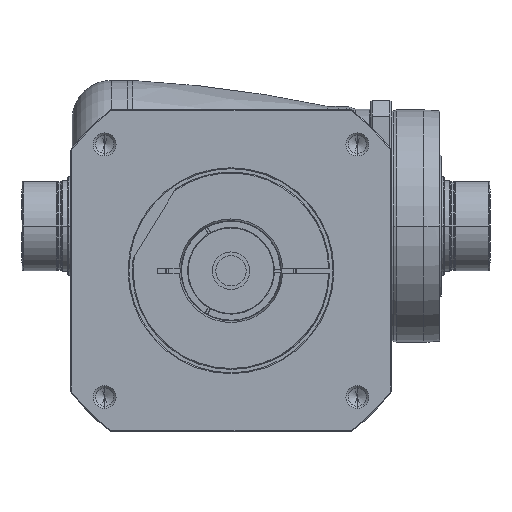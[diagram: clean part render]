
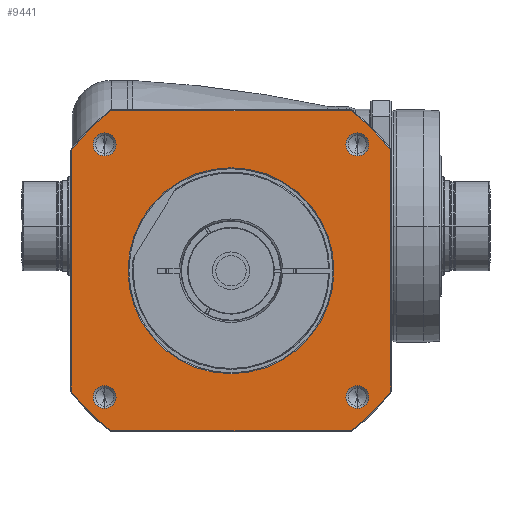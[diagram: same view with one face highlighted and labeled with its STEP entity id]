
A CAD part, front view. The second image highlights one B-rep face of the part: STEP entity #9441.
In plain terms, the highlighted planar face has unit normal (0, -1, 0) as drawn and (0, 0, 1) by its records, which use the part's own axes.
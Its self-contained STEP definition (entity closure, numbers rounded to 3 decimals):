
#8169=DIRECTION('',(1.,0.,0.));
#8170=VECTOR('',#8169,134.666);
#8171=CARTESIAN_POINT('',(-67.333,-89.5,54.));
#8172=LINE('',#8171,#8170);
#8182=CARTESIAN_POINT('',(0.,0.,54.));
#8183=DIRECTION('',(0.,0.,-1.));
#8184=DIRECTION('',(0.,-1.,0.));
#8185=AXIS2_PLACEMENT_3D('',#8182,#8183,#8184);
#8187=CARTESIAN_POINT('',(0.,0.,
54.));
#8188=DIRECTION('',(0.,0.,-1.));
#8189=DIRECTION('',(0.,1.,0.));
#8190=AXIS2_PLACEMENT_3D('',#8187,#8188,#8189);
#8192=CARTESIAN_POINT('',(0.,0.,54.));
#8193=DIRECTION('',(0.,0.,1.));
#8194=DIRECTION('',(-0.799,-0.601,0.));
#8195=AXIS2_PLACEMENT_3D('',#8192,#8193,#8194);
#8207=DIRECTION('',(0.,-1.,0.));
#8208=VECTOR('',#8207,134.666);
#8209=CARTESIAN_POINT('',(-89.5,67.333,54.));
#8210=LINE('',#8209,#8208);
#8220=CARTESIAN_POINT('',(0.,0.,54.));
#8221=DIRECTION('',(0.,0.,1.));
#8222=DIRECTION('',(-0.601,0.799,0.));
#8223=AXIS2_PLACEMENT_3D('',#8220,#8221,#8222);
#8248=DIRECTION('',(-1.,0.,0.));
#8249=VECTOR('',#8248,134.666);
#8250=CARTESIAN_POINT('',(67.333,89.5,54.));
#8251=LINE('',#8250,#8249);
#8256=CARTESIAN_POINT('',(0.,0.,54.));
#8257=DIRECTION('',(0.,0.,1.));
#8258=DIRECTION('',(0.799,0.601,0.));
#8259=AXIS2_PLACEMENT_3D('',#8256,#8257,#8258);
#8271=DIRECTION('',(0.,1.,0.));
#8272=VECTOR('',#8271,134.666);
#8273=CARTESIAN_POINT('',(89.5,-67.333,54.));
#8274=LINE('',#8273,#8272);
#8376=CARTESIAN_POINT('',(0.,0.,54.));
#8377=DIRECTION('',(0.,0.,1.));
#8378=DIRECTION('',(0.601,-0.799,0.));
#8379=AXIS2_PLACEMENT_3D('',#8376,#8377,#8378);
#8658=CARTESIAN_POINT('',(-70.711,70.711,54.));
#8659=DIRECTION('',(0.,0.,1.));
#8660=DIRECTION('',(-1.,0.,0.));
#8661=AXIS2_PLACEMENT_3D('',#8658,#8659,#8660);
#8676=CARTESIAN_POINT('',(-70.711,70.711,54.));
#8677=DIRECTION('',(0.,0.,1.));
#8678=DIRECTION('',(1.,0.,0.));
#8679=AXIS2_PLACEMENT_3D('',#8676,#8677,#8678);
#8712=CARTESIAN_POINT('',(70.711,70.711,54.));
#8713=DIRECTION('',(0.,0.,1.));
#8714=DIRECTION('',(-1.,0.,0.));
#8715=AXIS2_PLACEMENT_3D('',#8712,#8713,#8714);
#8730=CARTESIAN_POINT('',(70.711,70.711,54.));
#8731=DIRECTION('',(0.,0.,1.));
#8732=DIRECTION('',(1.,0.,0.));
#8733=AXIS2_PLACEMENT_3D('',#8730,#8731,#8732);
#8766=CARTESIAN_POINT('',(70.711,-70.711,54.));
#8767=DIRECTION('',(0.,0.,1.));
#8768=DIRECTION('',(-1.,0.,0.));
#8769=AXIS2_PLACEMENT_3D('',#8766,#8767,#8768);
#8784=CARTESIAN_POINT('',(70.711,-70.711,54.));
#8785=DIRECTION('',(0.,0.,1.));
#8786=DIRECTION('',(1.,0.,0.));
#8787=AXIS2_PLACEMENT_3D('',#8784,#8785,#8786);
#8820=CARTESIAN_POINT('',(-70.711,-70.711,54.));
#8821=DIRECTION('',(0.,0.,1.));
#8822=DIRECTION('',(-1.,0.,0.));
#8823=AXIS2_PLACEMENT_3D('',#8820,#8821,#8822);
#8838=CARTESIAN_POINT('',(-70.711,-70.711,54.));
#8839=DIRECTION('',(0.,0.,1.));
#8840=DIRECTION('',(1.,0.,0.));
#8841=AXIS2_PLACEMENT_3D('',#8838,#8839,#8840);
#8882=CARTESIAN_POINT('',(89.5,-67.333,54.));
#8883=CARTESIAN_POINT('',(89.5,67.333,54.));
#8884=VERTEX_POINT('',#8882);
#8885=VERTEX_POINT('',#8883);
#8890=CARTESIAN_POINT('',(67.333,-89.5,54.));
#8891=VERTEX_POINT('',#8890);
#8894=CARTESIAN_POINT('',(-67.333,-89.5,54.));
#8895=VERTEX_POINT('',#8894);
#8898=CARTESIAN_POINT('',(-89.5,-67.333,54.));
#8899=VERTEX_POINT('',#8898);
#8902=CARTESIAN_POINT('',(-89.5,67.333,54.));
#8903=VERTEX_POINT('',#8902);
#8906=CARTESIAN_POINT('',(-67.333,89.5,54.));
#8907=VERTEX_POINT('',#8906);
#8910=CARTESIAN_POINT('',(67.333,89.5,54.));
#8911=VERTEX_POINT('',#8910);
#8960=CARTESIAN_POINT('',(-77.111,70.711,54.));
#8961=CARTESIAN_POINT('',(-64.311,70.711,54.));
#8962=VERTEX_POINT('',#8960);
#8963=VERTEX_POINT('',#8961);
#8994=CARTESIAN_POINT('',(77.111,70.711,54.));
#8995=CARTESIAN_POINT('',(64.311,70.711,54.));
#8996=VERTEX_POINT('',#8994);
#8997=VERTEX_POINT('',#8995);
#9002=CARTESIAN_POINT('',(77.111,-70.711,54.));
#9003=CARTESIAN_POINT('',(64.311,-70.711,54.));
#9004=VERTEX_POINT('',#9002);
#9005=VERTEX_POINT('',#9003);
#9010=CARTESIAN_POINT('',(-64.311,-70.711,54.));
#9011=CARTESIAN_POINT('',(-77.111,-70.711,54.));
#9012=VERTEX_POINT('',#9010);
#9013=VERTEX_POINT('',#9011);
#9018=CARTESIAN_POINT('',(0.,-57.65,54.));
#9019=CARTESIAN_POINT('',(0.,57.65,54.));
#9020=VERTEX_POINT('',#9018);
#9021=VERTEX_POINT('',#9019);
#9389=CARTESIAN_POINT('',(0.,0.,54.));
#9390=DIRECTION('',(0.,0.,1.));
#9391=DIRECTION('',(1.,0.,0.));
#9392=AXIS2_PLACEMENT_3D('',#9389,#9390,#9391);
#9393=PLANE('',#9392);
#9395=ORIENTED_EDGE('',*,*,#9394,.F.);
#9397=ORIENTED_EDGE('',*,*,#9396,.F.);
#9399=ORIENTED_EDGE('',*,*,#9398,.F.);
#9401=ORIENTED_EDGE('',*,*,#9400,.F.);
#9403=ORIENTED_EDGE('',*,*,#9402,.F.);
#9405=ORIENTED_EDGE('',*,*,#9404,.F.);
#9407=ORIENTED_EDGE('',*,*,#9406,.F.);
#9408=ORIENTED_EDGE('',*,*,#9379,.F.);
#9409=EDGE_LOOP('',(#9395,#9397,#9399,#9401,#9403,#9405,#9407,#9408));
#9410=FACE_OUTER_BOUND('',#9409,.F.);
#9412=ORIENTED_EDGE('',*,*,#9411,.F.);
#9414=ORIENTED_EDGE('',*,*,#9413,.F.);
#9415=EDGE_LOOP('',(#9412,#9414));
#9416=FACE_BOUND('',#9415,.F.);
#9418=ORIENTED_EDGE('',*,*,#9417,.T.);
#9420=ORIENTED_EDGE('',*,*,#9419,.T.);
#9421=EDGE_LOOP('',(#9418,#9420));
#9422=FACE_BOUND('',#9421,.F.);
#9424=ORIENTED_EDGE('',*,*,#9423,.T.);
#9426=ORIENTED_EDGE('',*,*,#9425,.T.);
#9427=EDGE_LOOP('',(#9424,#9426));
#9428=FACE_BOUND('',#9427,.F.);
#9430=ORIENTED_EDGE('',*,*,#9429,.T.);
#9432=ORIENTED_EDGE('',*,*,#9431,.T.);
#9433=EDGE_LOOP('',(#9430,#9432));
#9434=FACE_BOUND('',#9433,.F.);
#9436=ORIENTED_EDGE('',*,*,#9435,.T.);
#9438=ORIENTED_EDGE('',*,*,#9437,.T.);
#9439=EDGE_LOOP('',(#9436,#9438));
#9440=FACE_BOUND('',#9439,.F.);
#9441=ADVANCED_FACE('',(#9410,#9416,#9422,#9428,#9434,#9440),#9393,.T.);
#8186=CIRCLE('',#8185,57.65);
#8191=CIRCLE('',#8190,57.65);
#8196=CIRCLE('',#8195,112.);
#8224=CIRCLE('',#8223,112.);
#8260=CIRCLE('',#8259,112.);
#8380=CIRCLE('',#8379,112.);
#8662=CIRCLE('',#8661,6.4);
#8680=CIRCLE('',#8679,6.4);
#8716=CIRCLE('',#8715,6.4);
#8734=CIRCLE('',#8733,6.4);
#8770=CIRCLE('',#8769,6.4);
#8788=CIRCLE('',#8787,6.4);
#8824=CIRCLE('',#8823,6.4);
#8842=CIRCLE('',#8841,6.4);
#9379=EDGE_CURVE('',#8895,#8891,#8172,.T.);
#9394=EDGE_CURVE('',#8899,#8895,#8196,.T.);
#9396=EDGE_CURVE('',#8903,#8899,#8210,.T.);
#9398=EDGE_CURVE('',#8907,#8903,#8224,.T.);
#9400=EDGE_CURVE('',#8911,#8907,#8251,.T.);
#9402=EDGE_CURVE('',#8885,#8911,#8260,.T.);
#9404=EDGE_CURVE('',#8884,#8885,#8274,.T.);
#9406=EDGE_CURVE('',#8891,#8884,#8380,.T.);
#9411=EDGE_CURVE('',#9020,#9021,#8186,.T.);
#9413=EDGE_CURVE('',#9021,#9020,#8191,.T.);
#9417=EDGE_CURVE('',#8962,#8963,#8662,.T.);
#9419=EDGE_CURVE('',#8963,#8962,#8680,.T.);
#9423=EDGE_CURVE('',#8997,#8996,#8716,.T.);
#9425=EDGE_CURVE('',#8996,#8997,#8734,.T.);
#9429=EDGE_CURVE('',#9005,#9004,#8770,.T.);
#9431=EDGE_CURVE('',#9004,#9005,#8788,.T.);
#9435=EDGE_CURVE('',#9013,#9012,#8824,.T.);
#9437=EDGE_CURVE('',#9012,#9013,#8842,.T.);
